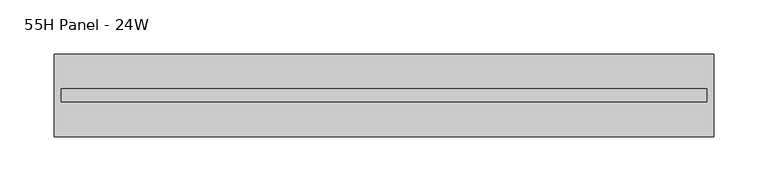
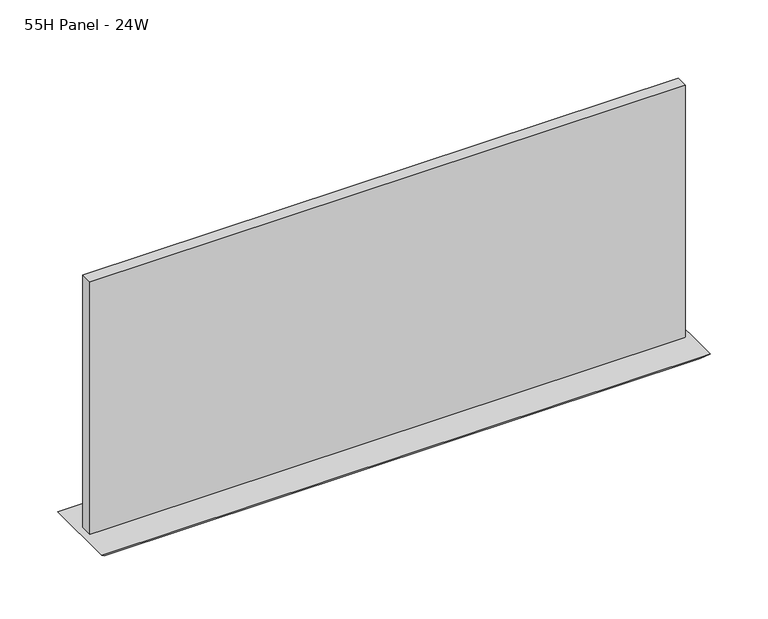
"""IFC4 building model written with IfcOpenShell, lengths in millimetres: furniture geometry, Steelcase - Montage - Tiles - 10H - Frameless Glass Stacker : 55H Panel - 24W."""

from ifc_helpers import new_model, si_unit, frame, origin, place, context, project, spatial, polyline, outline, extrude, faceted_brep, source, transform, mapped, element, save


def furniture_55h_panel_24w_1ceb63e5(model_context):
    return source(origin(), model_context, "Body", "SolidModel", [
        faceted_brep([(609.6, -38.1000015, 1398.5875), (0.0, -38.1000015, 1398.5875), (6.35, -31.7500015, 1392.2375), (603.25, -31.7500015, 1392.2375), (6.35, 31.7500015, 1392.2375), (603.25, 31.7500015, 1392.2375), (0.0, 38.1000015, 1398.5875), (609.6, 38.1000015, 1398.5875)], [[[0, 1, 2, 3]], [[3, 2, 4, 5]], [[6, 7, 5, 4]], [[1, 0, 7, 6]], [[2, 1, 6, 4]], [[0, 3, 5, 7]]]),
        extrude(outline(polyline([(602.8181828, -5.9944001), (6.7818001, -5.9944001), (6.7818001, 5.9944008), (602.8181828, 5.9944008), (602.8181828, -5.9944001)])), frame((0.0, 0.0, 1398.5875), z_axis=(0.0, 0.0, 1.0), x_axis=(1.0, 0.0, 0.0)), (0.0, 0.0, 1.0), 267.7160475),
    ])


if __name__ == "__main__":
    model = new_model("IFC4")
    model_context = context("Model", 3, world=origin())
    ifc_project = project(units=[si_unit("LENGTHUNIT", "METRE", prefix="MILLI")], contexts=[model_context])
    site = spatial("IfcSite", under=ifc_project)
    building = spatial("IfcBuilding", under=site)
    placement = place(None, origin())
    furniture_55h_panel_24w_shape = furniture_55h_panel_24w_1ceb63e5(model_context)
    element("IfcFurniture", 1, ObjectType="Steelcase - Montage - Tiles - 10H - Frameless Glass Stacker : 55H Panel - 24W", at=placement, inside=building, context=model_context, shape_type="MappedRepresentation", body=[
        mapped(furniture_55h_panel_24w_shape, transform((0.0, 0.0, 0.0), x_axis=(1.0, 0.0, 0.0), y_axis=(0.0, 1.0, 0.0), z_axis=(0.0, 0.0, 1.0))),
    ])
    save(model, "model.ifc")
